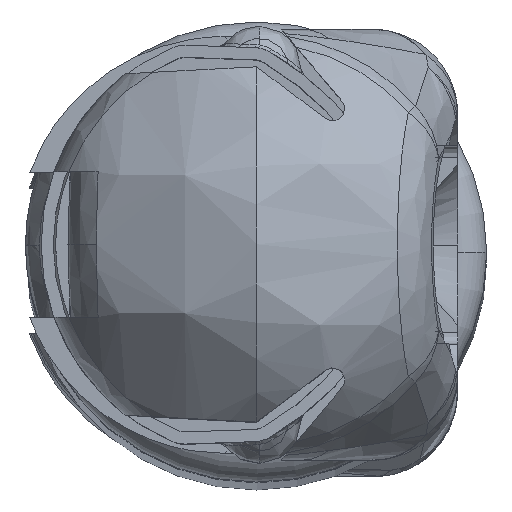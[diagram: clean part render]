
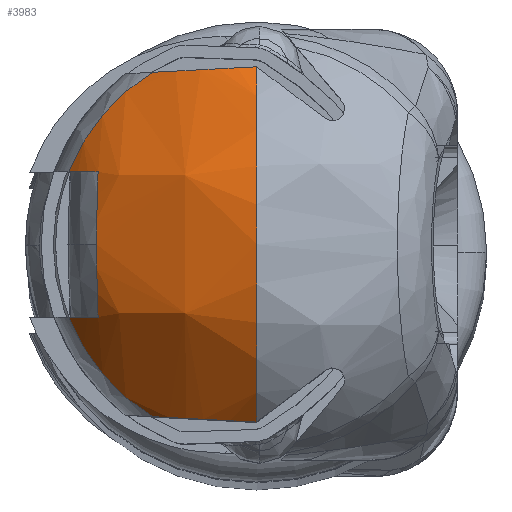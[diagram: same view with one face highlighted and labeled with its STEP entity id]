
A CAD part, top view. The second image highlights one B-rep face of the part: STEP entity #3983.
In plain terms, the highlighted free-form (B-spline) face has degree [3, 3] with [4, 4] control points.
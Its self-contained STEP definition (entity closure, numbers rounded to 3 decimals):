
#216 = DIRECTION ( 'NONE',  ( 1., 0., 0. ) ) ;
#217 = DIRECTION ( 'NONE',  ( 0., -1., 0. ) ) ;
#218 = CARTESIAN_POINT ( 'NONE',  ( -1.5, 3., 0. ) ) ;
#371 = DIRECTION ( 'NONE',  ( 0., 0., -1. ) ) ;
#372 = DIRECTION ( 'NONE',  ( 1., 0., 0. ) ) ;
#373 = CARTESIAN_POINT ( 'NONE',  ( -7.066, 0., 0. ) ) ;
#428 = DIRECTION ( 'NONE',  ( 1., 0., 0. ) ) ;
#429 = DIRECTION ( 'NONE',  ( 0., -1., 0. ) ) ;
#430 = CARTESIAN_POINT ( 'NONE',  ( -1.5, -3., 0. ) ) ;
#733 = VERTEX_POINT ( 'NONE', #8185 ) ;
#763 = VERTEX_POINT ( 'NONE', #8157 ) ;
#813 = VERTEX_POINT ( 'NONE', #8105 ) ;
#848 = VERTEX_POINT ( 'NONE', #8067 ) ;
#920 = VERTEX_POINT ( 'NONE', #7995 ) ;
#1012 = VERTEX_POINT ( 'NONE', #7904 ) ;
#1015 = VERTEX_POINT ( 'NONE', #7902 ) ;
#1039 = VERTEX_POINT ( 'NONE', #7880 ) ;
#1040 = VERTEX_POINT ( 'NONE', #7879 ) ;
#3125 = EDGE_CURVE ( 'NONE', #733, #1012, #13089, .T. ) ;
#3168 = EDGE_CURVE ( 'NONE', #1015, #848, #13096, .T. ) ;
#3229 = EDGE_CURVE ( 'NONE', #763, #1039, #11320, .T. ) ;
#3376 = EDGE_CURVE ( 'NONE', #733, #920, #9173, .T. ) ;
#3578 = EDGE_CURVE ( 'NONE', #1012, #1015, #10913, .T. ) ;
#3650 = EDGE_CURVE ( 'NONE', #920, #763, #10983, .T. ) ;
#3669 = EDGE_CURVE ( 'NONE', #848, #813, #6512, .T. ) ;
#3685 = EDGE_CURVE ( 'NONE', #813, #1040, #6469, .T. ) ;
#3946 = EDGE_CURVE ( 'NONE', #1039, #1040, #6429, .T. ) ;
#3983 = ADVANCED_FACE ( 'NONE', ( #11479 ), #13332, .T. ) ;
#5981 = EDGE_LOOP ( 'NONE', ( #9538, #9526, #9210, #9424, #9398, #9653, #9691, #9524, #9551 ) ) ;
#6429 = CIRCLE ( 'NONE', #6493, 8.157 ) ;
#6466 = AXIS2_PLACEMENT_3D ( 'NONE', #218, #217, #216 ) ;
#6469 = CIRCLE ( 'NONE', #6466, 9.539 ) ;
#6493 = AXIS2_PLACEMENT_3D ( 'NONE', #13809, #13808, #13807 ) ;
#6498 = AXIS2_PLACEMENT_3D ( 'NONE', #373, #372, #371 ) ;
#6512 = CIRCLE ( 'NONE', #6498, 8.308 ) ;
#7879 = CARTESIAN_POINT ( 'NONE',  ( -8.439, 3., 6.546 ) ) ;
#7880 = CARTESIAN_POINT ( 'NONE',  ( -9.008, 0., 6.606 ) ) ;
#7902 = CARTESIAN_POINT ( 'NONE',  ( -8.297, 7.335, 0. ) ) ;
#7904 = CARTESIAN_POINT ( 'NONE',  ( -8.297, -7.335, 0. ) ) ;
#7995 = CARTESIAN_POINT ( 'NONE',  ( -7.066, -3., 7.747 ) ) ;
#8067 = CARTESIAN_POINT ( 'NONE',  ( -7.066, 7.11, 4.298 ) ) ;
#8105 = CARTESIAN_POINT ( 'NONE',  ( -7.066, 3., 7.747 ) ) ;
#8157 = CARTESIAN_POINT ( 'NONE',  ( -8.439, -3., 6.546 ) ) ;
#8185 = CARTESIAN_POINT ( 'NONE',  ( -7.066, -7.11, 4.298 ) ) ;
#8944 = AXIS2_PLACEMENT_3D ( 'NONE', #16337, #16336, #16335 ) ;
#9170 = AXIS2_PLACEMENT_3D ( 'NONE', #18939, #18934, #18935 ) ;
#9173 = CIRCLE ( 'NONE', #8944, 8.308 ) ;
#9210 = ORIENTED_EDGE ( 'NONE', *, *, #3376, .T. ) ;
#9398 = ORIENTED_EDGE ( 'NONE', *, *, #3229, .T. ) ;
#9424 = ORIENTED_EDGE ( 'NONE', *, *, #3650, .T. ) ;
#9524 = ORIENTED_EDGE ( 'NONE', *, *, #3669, .F. ) ;
#9526 = ORIENTED_EDGE ( 'NONE', *, *, #3125, .F. ) ;
#9538 = ORIENTED_EDGE ( 'NONE', *, *, #3578, .F. ) ;
#9551 = ORIENTED_EDGE ( 'NONE', *, *, #3168, .F. ) ;
#9653 = ORIENTED_EDGE ( 'NONE', *, *, #3946, .T. ) ;
#9691 = ORIENTED_EDGE ( 'NONE', *, *, #3685, .F. ) ;
#10913 = CIRCLE ( 'NONE', #10927, 10. ) ;
#10927 = AXIS2_PLACEMENT_3D ( 'NONE', #14933, #14932, #14931 ) ;
#10981 = AXIS2_PLACEMENT_3D ( 'NONE', #430, #429, #428 ) ;
#10983 = CIRCLE ( 'NONE', #10981, 9.539 ) ;
#11320 = CIRCLE ( 'NONE', #9170, 8.157 ) ;
#11479 = FACE_OUTER_BOUND ( 'NONE', #5981, .T. ) ;
#13089 = B_SPLINE_CURVE_WITH_KNOTS ( 'NONE', 3,
 ( #18542, #18756, #18450, #18661, #18449, #18451 ),
 .UNSPECIFIED., .F., .F.,
 ( 4, 2, 4 ),
 ( 0., 0.002, 0.005 ),
 .UNSPECIFIED. ) ;
#13096 = B_SPLINE_CURVE_WITH_KNOTS ( 'NONE', 3,
 ( #18741, #18693, #18677, #18707, #18701, #18737 ),
 .UNSPECIFIED., .F., .F.,
 ( 4, 2, 4 ),
 ( 0., 0.002, 0.005 ),
 .UNSPECIFIED. ) ;
#13332 =( BOUNDED_SURFACE ( )  B_SPLINE_SURFACE ( 3, 3, ( 
 ( #13640, #13639, #13638, #13637 ),
 ( #13636, #13635, #13634, #13633 ),
 ( #13632, #13631, #13630, #13629 ),
 ( #13628, #13627, #13626, #13625 ) ),
 .UNSPECIFIED., .F., .F., .F. ) 
 B_SPLINE_SURFACE_WITH_KNOTS ( ( 4, 4 ),
 ( 4, 4 ),
 ( 0., 1. ),
 ( 0., 1. ),
 .UNSPECIFIED. ) 
 GEOMETRIC_REPRESENTATION_ITEM ( )  RATIONAL_B_SPLINE_SURFACE ( (
 ( 1., 0.926, 0.926, 1.),
 ( 0.782, 0.724, 0.724, 0.782),
 ( 0.782, 0.724, 0.724, 0.782),
 ( 1., 0.926, 0.926, 1.) ) ) 
 REPRESENTATION_ITEM ( '' )  SURFACE ( )  );
#13625 = CARTESIAN_POINT ( 'NONE',  ( -8.224, 7.402, 0. ) ) ;
#13626 = CARTESIAN_POINT ( 'NONE',  ( -8.224, 7.402, 2.222 ) ) ;
#13627 = CARTESIAN_POINT ( 'NONE',  ( -7.204, 7.402, 4.197 ) ) ;
#13628 = CARTESIAN_POINT ( 'NONE',  ( -5.392, 7.402, 5.483 ) ) ;
#13629 = CARTESIAN_POINT ( 'NONE',  ( -12.897, 3.157, 0. ) ) ;
#13630 = CARTESIAN_POINT ( 'NONE',  ( -12.897, 3.157, 3.767 ) ) ;
#13631 = CARTESIAN_POINT ( 'NONE',  ( -11.169, 3.157, 7.113 ) ) ;
#13632 = CARTESIAN_POINT ( 'NONE',  ( -8.097, 3.157, 9.293 ) ) ;
#13633 = CARTESIAN_POINT ( 'NONE',  ( -12.897, -3.157, 0. ) ) ;
#13634 = CARTESIAN_POINT ( 'NONE',  ( -12.897, -3.157, 3.767 ) ) ;
#13635 = CARTESIAN_POINT ( 'NONE',  ( -11.169, -3.157, 7.113 ) ) ;
#13636 = CARTESIAN_POINT ( 'NONE',  ( -8.097, -3.157, 9.293 ) ) ;
#13637 = CARTESIAN_POINT ( 'NONE',  ( -8.224, -7.402, 0. ) ) ;
#13638 = CARTESIAN_POINT ( 'NONE',  ( -8.224, -7.402, 2.222 ) ) ;
#13639 = CARTESIAN_POINT ( 'NONE',  ( -7.204, -7.402, 4.197 ) ) ;
#13640 = CARTESIAN_POINT ( 'NONE',  ( -5.392, -7.402, 5.483 ) ) ;
#13807 = DIRECTION ( 'NONE',  ( -0.995, 0., 0.105 ) ) ;
#13808 = DIRECTION ( 'NONE',  ( -0.105, 0., -0.995 ) ) ;
#13809 = CARTESIAN_POINT ( 'NONE',  ( -0.895, 0., 5.753 ) ) ;
#14931 = DIRECTION ( 'NONE',  ( 0., -1., 0. ) ) ;
#14932 = DIRECTION ( 'NONE',  ( 0., 0., -1. ) ) ;
#14933 = CARTESIAN_POINT ( 'NONE',  ( -1.5, 0., 0. ) ) ;
#16335 = DIRECTION ( 'NONE',  ( 0., 0., -1. ) ) ;
#16336 = DIRECTION ( 'NONE',  ( -1., 0., 0. ) ) ;
#16337 = CARTESIAN_POINT ( 'NONE',  ( -7.066, 0., 0. ) ) ;
#18449 = CARTESIAN_POINT ( 'NONE',  ( -8.34, -7.295, 0.765 ) ) ;
#18450 = CARTESIAN_POINT ( 'NONE',  ( -7.834, -7.178, 2.99 ) ) ;
#18451 = CARTESIAN_POINT ( 'NONE',  ( -8.297, -7.335, 0. ) ) ;
#18542 = CARTESIAN_POINT ( 'NONE',  ( -7.066, -7.11, 4.298 ) ) ;
#18661 = CARTESIAN_POINT ( 'NONE',  ( -8.256, -7.256, 1.517 ) ) ;
#18677 = CARTESIAN_POINT ( 'NONE',  ( -8.256, 7.256, 1.516 ) ) ;
#18693 = CARTESIAN_POINT ( 'NONE',  ( -8.34, 7.295, 0.765 ) ) ;
#18701 = CARTESIAN_POINT ( 'NONE',  ( -7.508, 7.143, 3.671 ) ) ;
#18707 = CARTESIAN_POINT ( 'NONE',  ( -7.835, 7.178, 2.989 ) ) ;
#18737 = CARTESIAN_POINT ( 'NONE',  ( -7.066, 7.11, 4.298 ) ) ;
#18741 = CARTESIAN_POINT ( 'NONE',  ( -8.297, 7.335, 0. ) ) ;
#18756 = CARTESIAN_POINT ( 'NONE',  ( -7.508, -7.143, 3.671 ) ) ;
#18934 = DIRECTION ( 'NONE',  ( -0.105, 0., -0.995 ) ) ;
#18935 = DIRECTION ( 'NONE',  ( -0.995, 0., 0.105 ) ) ;
#18939 = CARTESIAN_POINT ( 'NONE',  ( -0.895, 0., 5.753 ) ) ;
